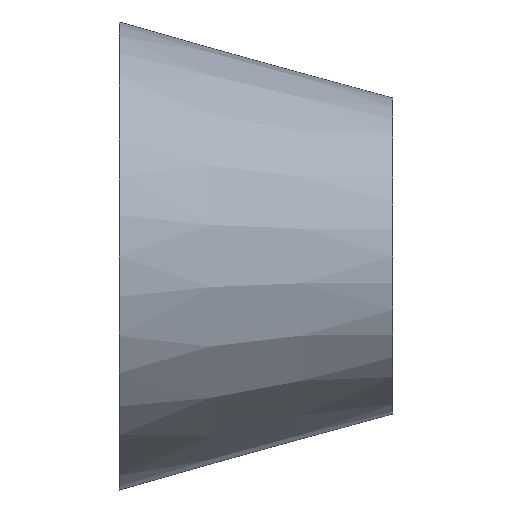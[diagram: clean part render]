
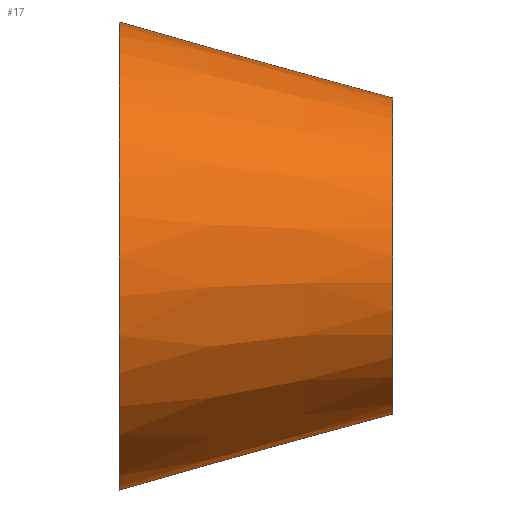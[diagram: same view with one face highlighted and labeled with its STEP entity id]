
A CAD part, front view. The second image highlights one B-rep face of the part: STEP entity #17.
In plain terms, the highlighted conical face has half-angle 15.524 degrees and reference radius 77 mm.
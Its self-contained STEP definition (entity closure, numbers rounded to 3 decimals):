
#17 = ADVANCED_FACE('',(#18),#31,.T.);
#18 = FACE_BOUND('',#19,.T.);
#19 = EDGE_LOOP('',(#20,#54,#74,#101));
#20 = ORIENTED_EDGE('',*,*,#21,.T.);
#21 = EDGE_CURVE('',#22,#22,#24,.T.);
#22 = VERTEX_POINT('',#23);
#23 = CARTESIAN_POINT('',(0.,77.,0.));
#24 = SURFACE_CURVE('',#25,(#30,#42),.PCURVE_S1.);
#25 = CIRCLE('',#26,77.);
#26 = AXIS2_PLACEMENT_3D('',#27,#28,#29);
#27 = CARTESIAN_POINT('',(0.,0.,0.));
#28 = DIRECTION('',(1.,0.,0.));
#29 = DIRECTION('',(0.,1.,0.));
#30 = PCURVE('',#31,#36);
#31 = CONICAL_SURFACE('',#32,77.,0.271);
#32 = AXIS2_PLACEMENT_3D('',#33,#34,#35);
#33 = CARTESIAN_POINT('',(0.,0.,0.));
#34 = DIRECTION('',(-1.,-0.,-0.));
#35 = DIRECTION('',(0.,1.,0.));
#36 = DEFINITIONAL_REPRESENTATION('',(#37),#41);
#37 = LINE('',#38,#39);
#38 = CARTESIAN_POINT('',(-0.,-0.));
#39 = VECTOR('',#40,1.);
#40 = DIRECTION('',(-1.,-0.));
#41 = ( GEOMETRIC_REPRESENTATION_CONTEXT(2) 
PARAMETRIC_REPRESENTATION_CONTEXT() REPRESENTATION_CONTEXT('2D SPACE',''
  ) );
#42 = PCURVE('',#43,#48);
#43 = PLANE('',#44);
#44 = AXIS2_PLACEMENT_3D('',#45,#46,#47);
#45 = CARTESIAN_POINT('',(0.,0.,0.));
#46 = DIRECTION('',(1.,0.,0.));
#47 = DIRECTION('',(0.,1.,0.));
#48 = DEFINITIONAL_REPRESENTATION('',(#49),#53);
#49 = CIRCLE('',#50,77.);
#50 = AXIS2_PLACEMENT_2D('',#51,#52);
#51 = CARTESIAN_POINT('',(0.,0.));
#52 = DIRECTION('',(1.,0.));
#53 = ( GEOMETRIC_REPRESENTATION_CONTEXT(2) 
PARAMETRIC_REPRESENTATION_CONTEXT() REPRESENTATION_CONTEXT('2D SPACE',''
  ) );
#54 = ORIENTED_EDGE('',*,*,#55,.T.);
#55 = EDGE_CURVE('',#22,#56,#58,.T.);
#56 = VERTEX_POINT('',#57);
#57 = CARTESIAN_POINT('',(90.,52.,0.));
#58 = SEAM_CURVE('',#59,(#62,#68),.PCURVE_S1.);
#59 = B_SPLINE_CURVE_WITH_KNOTS('',1,(#60,#61),.UNSPECIFIED.,.F.,.F.,(2,
    2),(0.,1.),.PIECEWISE_BEZIER_KNOTS.);
#60 = CARTESIAN_POINT('',(0.,77.,0.));
#61 = CARTESIAN_POINT('',(90.,52.,0.));
#62 = PCURVE('',#31,#63);
#63 = DEFINITIONAL_REPRESENTATION('',(#64),#67);
#64 = B_SPLINE_CURVE_WITH_KNOTS('',1,(#65,#66),.UNSPECIFIED.,.F.,.F.,(2,
    2),(0.,1.),.PIECEWISE_BEZIER_KNOTS.);
#65 = CARTESIAN_POINT('',(-6.283,0.));
#66 = CARTESIAN_POINT('',(-6.283,-90.));
#67 = ( GEOMETRIC_REPRESENTATION_CONTEXT(2) 
PARAMETRIC_REPRESENTATION_CONTEXT() REPRESENTATION_CONTEXT('2D SPACE',''
  ) );
#68 = PCURVE('',#31,#69);
#69 = DEFINITIONAL_REPRESENTATION('',(#70),#73);
#70 = B_SPLINE_CURVE_WITH_KNOTS('',1,(#71,#72),.UNSPECIFIED.,.F.,.F.,(2,
    2),(0.,1.),.PIECEWISE_BEZIER_KNOTS.);
#71 = CARTESIAN_POINT('',(0.,0.));
#72 = CARTESIAN_POINT('',(0.,-90.));
#73 = ( GEOMETRIC_REPRESENTATION_CONTEXT(2) 
PARAMETRIC_REPRESENTATION_CONTEXT() REPRESENTATION_CONTEXT('2D SPACE',''
  ) );
#74 = ORIENTED_EDGE('',*,*,#75,.F.);
#75 = EDGE_CURVE('',#56,#56,#76,.T.);
#76 = SURFACE_CURVE('',#77,(#82,#89),.PCURVE_S1.);
#77 = CIRCLE('',#78,52.);
#78 = AXIS2_PLACEMENT_3D('',#79,#80,#81);
#79 = CARTESIAN_POINT('',(90.,0.,0.));
#80 = DIRECTION('',(1.,0.,0.));
#81 = DIRECTION('',(0.,1.,0.));
#82 = PCURVE('',#31,#83);
#83 = DEFINITIONAL_REPRESENTATION('',(#84),#88);
#84 = LINE('',#85,#86);
#85 = CARTESIAN_POINT('',(-0.,-90.));
#86 = VECTOR('',#87,1.);
#87 = DIRECTION('',(-1.,-0.));
#88 = ( GEOMETRIC_REPRESENTATION_CONTEXT(2) 
PARAMETRIC_REPRESENTATION_CONTEXT() REPRESENTATION_CONTEXT('2D SPACE',''
  ) );
#89 = PCURVE('',#90,#95);
#90 = PLANE('',#91);
#91 = AXIS2_PLACEMENT_3D('',#92,#93,#94);
#92 = CARTESIAN_POINT('',(90.,0.,0.));
#93 = DIRECTION('',(1.,0.,0.));
#94 = DIRECTION('',(0.,1.,0.));
#95 = DEFINITIONAL_REPRESENTATION('',(#96),#100);
#96 = CIRCLE('',#97,52.);
#97 = AXIS2_PLACEMENT_2D('',#98,#99);
#98 = CARTESIAN_POINT('',(0.,0.));
#99 = DIRECTION('',(1.,0.));
#100 = ( GEOMETRIC_REPRESENTATION_CONTEXT(2) 
PARAMETRIC_REPRESENTATION_CONTEXT() REPRESENTATION_CONTEXT('2D SPACE',''
  ) );
#101 = ORIENTED_EDGE('',*,*,#55,.F.);
